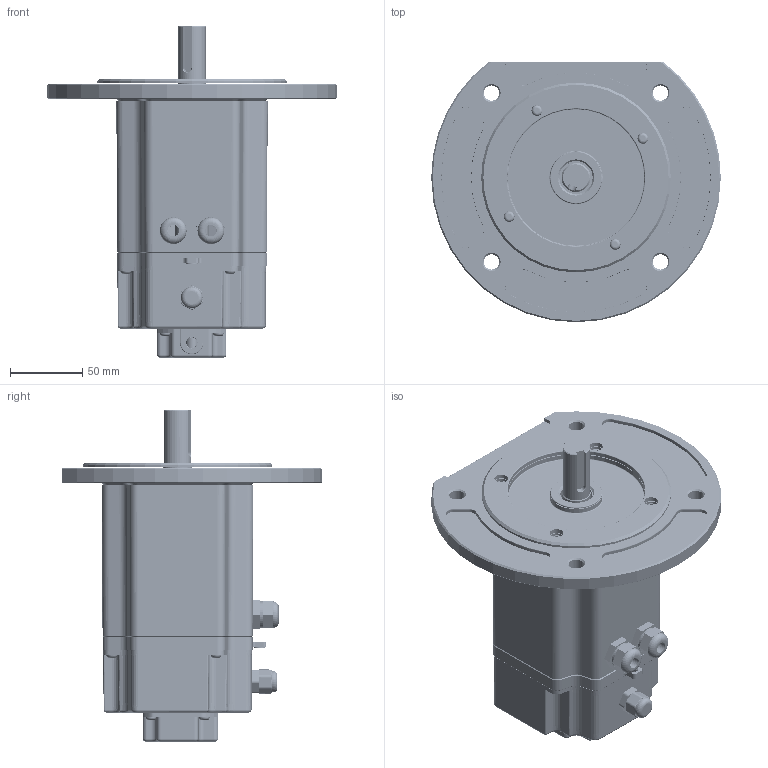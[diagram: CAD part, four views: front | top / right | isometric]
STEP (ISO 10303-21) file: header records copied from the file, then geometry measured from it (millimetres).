
FILE_DESCRIPTION (( 'STEP AP214' ), '1' );
FILE_NAME ('K20¡àK750N¡à-BE.STEP', '2025-01-23T08:59:08', ( 'frvao@naver.com' ), ( '' ), 'SwSTEP 2.0', 'SolidWorks 2022', '' );
FILE_SCHEMA (( 'AUTOMOTIVE_DESIGN' ));
Length unit declared in the file: millimetre
Products named in the file (37): SHAFT.STEP; CORE ASS''''''''Y.iam.STEP.STEP; K20¡àK750N¡à-BE; K20¡àK750N¡à.STEP; BS 290 SKF - SKF 6203-2Z.ipt.STEP.STEP; ENCODER COVER ASS''Y; SHAFT.ipt.STEP.STEP; AS 1420 - 1973 - M4 x 8.ipt.STEP-2.STEP; PCB ASS''''''''Y.iam.STEP.STEP; HALL IC.ipt.STEP.STEP; REAR-COVER.ipt.STEP.STEP; LEAD BUSH.stp; BRAKE COVER DC; CABLE GRAND.ipt.STEP.STEP; SHAFT.STEP.STEP; 400W __________A (______)(160913).ipt.STEP.STEP; HALL IC HOLDER.ipt.STEP.STEP; AS 1420 - 1973 - M4 x 8.ipt.STEP.STEP; KGM_ICE_FRONT COVER pi200.STEP; だお33; FRONT-COVER.ipt.STEP.STEP; M-CASE.ipt.STEP.STEP; MAGNET.ipt.STEP.STEP; R-ASS''''''''Y.iam.STEP.STEP; 馨檜綰; AS 1420 - 1973 - M4 x 8.ipt.STEP-1.STEP; S-CORE ASS''''''''Y.iam.STEP.STEP; S-CORE.ipt.STEP.STEP; PCB PIN.ipt.STEP.STEP; AS 1420 - 1973 - M4 x 8.ipt.STEP-0.STEP; 400W __________ B (______)(160920).ipt.STEP.STEP; ENCODER COVER; ______.iam.STEP.STEP; ____33.STEP; BS 290 SKF - SKF 6304-2Z.ipt.STEP.STEP; HALL PCB-RE01(161226).ipt.STEP.STEP; K10__K750N__.STEP.STEP
Assembly tree (207 placements, depth 7):
  K20¡àK750N¡à-BE
    K20¡àK750N¡à.STEP
      K10__K750N__.STEP.STEP
        ______.iam.STEP.STEP
          R-ASS''''''''Y.iam.STEP.STEP
            SHAFT.ipt.STEP.STEP
            MAGNET.ipt.STEP.STEP
            BS 290 SKF - SKF 6304-2Z.ipt.STEP.STEP
            BS 290 SKF - SKF 6203-2Z.ipt.STEP.STEP
          CORE ASS''''''''Y.iam.STEP.STEP
            S-CORE ASS''''''''Y.iam.STEP.STEP
              S-CORE.ipt.STEP.STEP  x143
            400W __________A (______)(160913).ipt.STEP.STEP
            400W __________ B (______)(160920).ipt.STEP.STEP
            PCB PIN.ipt.STEP.STEP  x12
          PCB ASS''''''''Y.iam.STEP.STEP
            HALL PCB-RE01(161226).ipt.STEP.STEP
            HALL IC HOLDER.ipt.STEP.STEP  x3
            HALL IC.ipt.STEP.STEP  x3
          M-CASE.ipt.STEP.STEP
          FRONT-COVER.ipt.STEP.STEP
          CABLE GRAND.ipt.STEP.STEP  x2
          REAR-COVER.ipt.STEP.STEP
          AS 1420 - 1973 - M4 x 8.ipt.STEP.STEP
          AS 1420 - 1973 - M4 x 8.ipt.STEP-0.STEP
          AS 1420 - 1973 - M4 x 8.ipt.STEP-1.STEP
          AS 1420 - 1973 - M4 x 8.ipt.STEP-2.STEP  x4
        SHAFT.STEP.STEP
      KGM_ICE_FRONT COVER pi200.STEP
      SHAFT.STEP
      ____33.STEP  x4
    BRAKE COVER DC
    馨檜綰
    だお33  x8
    ENCODER COVER ASS''Y
      LEAD BUSH.stp
      ENCODER COVER
Bounding box: 200 x 180 x 229.3 mm (x, y, z)
Volume: 1165508.9 mm3; surface area: 1554762.5 mm2
Topology: 203 solids, 203 shells, 37003 faces, 108014 edges, 71527 vertices
Faces by surface type: plane 18411, cylinder 17433, bspline 415, torus 406, cone 246, sphere 92
Entity records: 210421 total; most frequent: CARTESIAN_POINT 65671, ORIENTED_EDGE 29380, DIRECTION 28479, EDGE_CURVE 14690, AXIS2_PLACEMENT_3D 10124, VERTEX_POINT 9413, LINE 8231, VECTOR 8231
